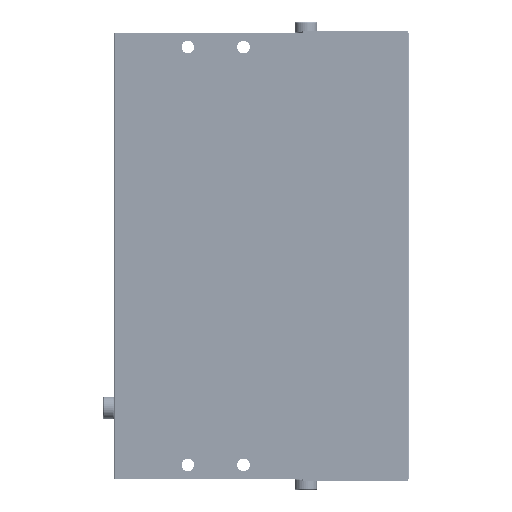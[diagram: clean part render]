
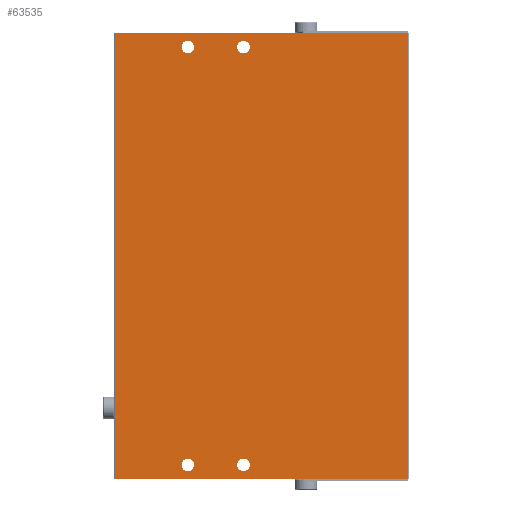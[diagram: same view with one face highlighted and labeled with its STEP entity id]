
A CAD part, front view. The second image highlights one B-rep face of the part: STEP entity #63535.
In plain terms, the highlighted planar face has unit normal (0, -1, 0).
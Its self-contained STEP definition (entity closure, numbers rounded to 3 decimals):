
#47187=DIRECTION('',(1.,0.,0.));
#47188=VECTOR('',#47187,105.);
#47189=CARTESIAN_POINT('',(-52.5,-16.9,160.));
#47190=LINE('',#47189,#47188);
#49159=DIRECTION('',(-1.,0.,0.));
#49160=VECTOR('',#49159,105.);
#49161=CARTESIAN_POINT('',(52.5,-16.9,0.));
#49162=LINE('',#49161,#49160);
#49355=DIRECTION('',(0.,0.,-1.));
#49356=VECTOR('',#49355,160.);
#49357=CARTESIAN_POINT('',(52.5,-16.9,160.));
#49358=LINE('',#49357,#49356);
#49359=CARTESIAN_POINT('',(-26.5,-16.9,155.));
#49360=DIRECTION('',(0.,1.,0.));
#49361=DIRECTION('',(0.,0.,1.));
#49362=AXIS2_PLACEMENT_3D('',#49359,#49360,#49361);
#49364=CARTESIAN_POINT('',(-26.5,-16.9,155.));
#49365=DIRECTION('',(0.,1.,0.));
#49366=DIRECTION('',(0.,0.,-1.));
#49367=AXIS2_PLACEMENT_3D('',#49364,#49365,#49366);
#49369=CARTESIAN_POINT('',(-6.5,-16.9,155.));
#49370=DIRECTION('',(0.,1.,0.));
#49371=DIRECTION('',(0.,0.,1.));
#49372=AXIS2_PLACEMENT_3D('',#49369,#49370,#49371);
#49374=CARTESIAN_POINT('',(-6.5,-16.9,155.));
#49375=DIRECTION('',(0.,1.,0.));
#49376=DIRECTION('',(0.,0.,-1.));
#49377=AXIS2_PLACEMENT_3D('',#49374,#49375,#49376);
#49379=CARTESIAN_POINT('',(-26.5,-16.9,5.));
#49380=DIRECTION('',(0.,1.,0.));
#49381=DIRECTION('',(0.,0.,-1.));
#49382=AXIS2_PLACEMENT_3D('',#49379,#49380,#49381);
#49384=CARTESIAN_POINT('',(-26.5,-16.9,5.));
#49385=DIRECTION('',(0.,1.,0.));
#49386=DIRECTION('',(0.,0.,1.));
#49387=AXIS2_PLACEMENT_3D('',#49384,#49385,#49386);
#49389=CARTESIAN_POINT('',(-6.5,-16.9,5.));
#49390=DIRECTION('',(0.,1.,0.));
#49391=DIRECTION('',(0.,0.,-1.));
#49392=AXIS2_PLACEMENT_3D('',#49389,#49390,#49391);
#49394=CARTESIAN_POINT('',(-6.5,-16.9,5.));
#49395=DIRECTION('',(0.,1.,0.));
#49396=DIRECTION('',(0.,0.,1.));
#49397=AXIS2_PLACEMENT_3D('',#49394,#49395,#49396);
#49403=DIRECTION('',(0.,0.,1.));
#49404=VECTOR('',#49403,160.);
#49405=CARTESIAN_POINT('',(-52.5,-16.9,0.));
#49406=LINE('',#49405,#49404);
#59582=CARTESIAN_POINT('',(-6.5,-16.9,2.75));
#59583=CARTESIAN_POINT('',(-6.5,-16.9,7.25));
#59584=VERTEX_POINT('',#59582);
#59585=VERTEX_POINT('',#59583);
#61061=CARTESIAN_POINT('',(-6.5,-16.9,152.75));
#61062=CARTESIAN_POINT('',(-6.5,-16.9,157.25));
#61063=VERTEX_POINT('',#61061);
#61064=VERTEX_POINT('',#61062);
#61427=CARTESIAN_POINT('',(-52.5,-16.9,160.));
#61428=CARTESIAN_POINT('',(52.5,-16.9,160.));
#61429=VERTEX_POINT('',#61427);
#61430=VERTEX_POINT('',#61428);
#61635=CARTESIAN_POINT('',(-26.5,-16.9,152.75));
#61637=VERTEX_POINT('',#61635);
#61642=CARTESIAN_POINT('',(-26.5,-16.9,157.25));
#61643=VERTEX_POINT('',#61642);
#61732=CARTESIAN_POINT('',(52.5,-16.9,0.));
#61733=VERTEX_POINT('',#61732);
#62007=CARTESIAN_POINT('',(-52.5,-16.9,0.));
#62008=VERTEX_POINT('',#62007);
#62034=CARTESIAN_POINT('',(-26.5,-16.9,2.75));
#62035=CARTESIAN_POINT('',(-26.5,-16.9,7.25));
#62036=VERTEX_POINT('',#62034);
#62037=VERTEX_POINT('',#62035);
#63499=CARTESIAN_POINT('',(-53.,-16.9,0.));
#63500=DIRECTION('',(0.,-1.,0.));
#63501=DIRECTION('',(0.,0.,-1.));
#63502=AXIS2_PLACEMENT_3D('',#63499,#63500,#63501);
#63503=PLANE('',#63502);
#63505=ORIENTED_EDGE('',*,*,#63504,.T.);
#63506=ORIENTED_EDGE('',*,*,#62171,.T.);
#63507=ORIENTED_EDGE('',*,*,#63494,.T.);
#63508=ORIENTED_EDGE('',*,*,#63364,.T.);
#63509=EDGE_LOOP('',(#63505,#63506,#63507,#63508));
#63510=FACE_OUTER_BOUND('',#63509,.F.);
#63512=ORIENTED_EDGE('',*,*,#63511,.F.);
#63514=ORIENTED_EDGE('',*,*,#63513,.F.);
#63515=EDGE_LOOP('',(#63512,#63514));
#63516=FACE_BOUND('',#63515,.F.);
#63518=ORIENTED_EDGE('',*,*,#63517,.F.);
#63520=ORIENTED_EDGE('',*,*,#63519,.F.);
#63521=EDGE_LOOP('',(#63518,#63520));
#63522=FACE_BOUND('',#63521,.F.);
#63524=ORIENTED_EDGE('',*,*,#63523,.F.);
#63526=ORIENTED_EDGE('',*,*,#63525,.F.);
#63527=EDGE_LOOP('',(#63524,#63526));
#63528=FACE_BOUND('',#63527,.F.);
#63530=ORIENTED_EDGE('',*,*,#63529,.F.);
#63532=ORIENTED_EDGE('',*,*,#63531,.F.);
#63533=EDGE_LOOP('',(#63530,#63532));
#63534=FACE_BOUND('',#63533,.F.);
#63535=ADVANCED_FACE('',(#63510,#63516,#63522,#63528,#63534),#63503,.T.);
#49363=CIRCLE('',#49362,2.25);
#49368=CIRCLE('',#49367,2.25);
#49373=CIRCLE('',#49372,2.25);
#49378=CIRCLE('',#49377,2.25);
#49383=CIRCLE('',#49382,2.25);
#49388=CIRCLE('',#49387,2.25);
#49393=CIRCLE('',#49392,2.25);
#49398=CIRCLE('',#49397,2.25);
#62171=EDGE_CURVE('',#61429,#61430,#47190,.T.);
#63364=EDGE_CURVE('',#61733,#62008,#49162,.T.);
#63494=EDGE_CURVE('',#61430,#61733,#49358,.T.);
#63504=EDGE_CURVE('',#62008,#61429,#49406,.T.);
#63511=EDGE_CURVE('',#61643,#61637,#49363,.T.);
#63513=EDGE_CURVE('',#61637,#61643,#49368,.T.);
#63517=EDGE_CURVE('',#61064,#61063,#49373,.T.);
#63519=EDGE_CURVE('',#61063,#61064,#49378,.T.);
#63523=EDGE_CURVE('',#62036,#62037,#49383,.T.);
#63525=EDGE_CURVE('',#62037,#62036,#49388,.T.);
#63529=EDGE_CURVE('',#59584,#59585,#49393,.T.);
#63531=EDGE_CURVE('',#59585,#59584,#49398,.T.);
